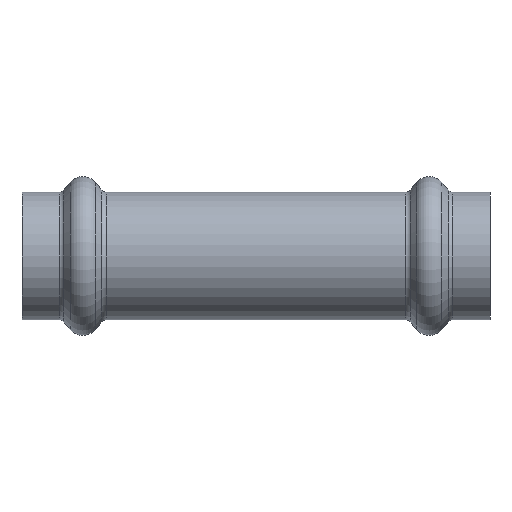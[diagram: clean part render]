
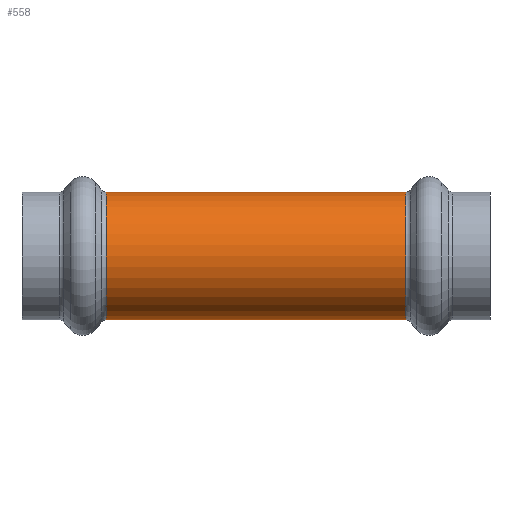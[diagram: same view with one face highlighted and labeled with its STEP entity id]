
A CAD part, front view. The second image highlights one B-rep face of the part: STEP entity #558.
In plain terms, the highlighted cylindrical face has radius 10.5 mm (diameter 21 mm), a partial arc.
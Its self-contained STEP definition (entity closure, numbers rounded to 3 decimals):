
#62 = DIRECTION ( 'NONE',  ( -1., 0., 0. ) ) ;
#219 = CARTESIAN_POINT ( 'NONE',  ( -24.623, 0., -10.5 ) ) ;
#237 = AXIS2_PLACEMENT_3D ( 'NONE', #2295, #62, #2647 ) ;
#305 = CARTESIAN_POINT ( 'NONE',  ( -58.611, 0., 0. ) ) ;
#402 = ORIENTED_EDGE ( 'NONE', *, *, #1023, .T. ) ;
#470 = EDGE_CURVE ( 'NONE', #1238, #535, #2749, .T. ) ;
#496 = ORIENTED_EDGE ( 'NONE', *, *, #3043, .F. ) ;
#535 = VERTEX_POINT ( 'NONE', #4714 ) ;
#537 = CARTESIAN_POINT ( 'NONE',  ( -58.611, 0., 10.5 ) ) ;
#556 = ORIENTED_EDGE ( 'NONE', *, *, #470, .T. ) ;
#558 = ADVANCED_FACE ( 'NONE', ( #1686 ), #4499, .T. ) ;
#676 = DIRECTION ( 'NONE',  ( -1., 0., 0. ) ) ;
#1023 = EDGE_CURVE ( 'NONE', #535, #2277, #2716, .T. ) ;
#1238 = VERTEX_POINT ( 'NONE', #4059 ) ;
#1580 = DIRECTION ( 'NONE',  ( 1., 0., 0. ) ) ;
#1686 = FACE_OUTER_BOUND ( 'NONE', #2839, .T. ) ;
#2277 = VERTEX_POINT ( 'NONE', #219 ) ;
#2295 = CARTESIAN_POINT ( 'NONE',  ( 24.623, 0., 0. ) ) ;
#2541 = AXIS2_PLACEMENT_3D ( 'NONE', #3758, #1580, #4130 ) ;
#2647 = DIRECTION ( 'NONE',  ( 0., 0., 1. ) ) ;
#2716 = CIRCLE ( 'NONE', #2541, 10.5 ) ;
#2722 = DIRECTION ( 'NONE',  ( -1., 0., 0. ) ) ;
#2749 = LINE ( 'NONE', #537, #3730 ) ;
#2839 = EDGE_LOOP ( 'NONE', ( #496, #4223, #556, #402 ) ) ;
#2951 = VERTEX_POINT ( 'NONE', #4277 ) ;
#3043 = EDGE_CURVE ( 'NONE', #2951, #2277, #3951, .T. ) ;
#3411 = VECTOR ( 'NONE', #676, 1000. ) ;
#3730 = VECTOR ( 'NONE', #2722, 1000. ) ;
#3758 = CARTESIAN_POINT ( 'NONE',  ( -24.623, 0., 0. ) ) ;
#3832 = CIRCLE ( 'NONE', #237, 10.5 ) ;
#3951 = LINE ( 'NONE', #3975, #3411 ) ;
#3975 = CARTESIAN_POINT ( 'NONE',  ( -58.611, 0., -10.5 ) ) ;
#4022 = AXIS2_PLACEMENT_3D ( 'NONE', #305, #4352, #4731 ) ;
#4059 = CARTESIAN_POINT ( 'NONE',  ( 24.623, 0., 10.5 ) ) ;
#4130 = DIRECTION ( 'NONE',  ( 0., 0., -1. ) ) ;
#4223 = ORIENTED_EDGE ( 'NONE', *, *, #4649, .T. ) ;
#4277 = CARTESIAN_POINT ( 'NONE',  ( 24.623, 0., -10.5 ) ) ;
#4352 = DIRECTION ( 'NONE',  ( -1., 0., 0. ) ) ;
#4499 = CYLINDRICAL_SURFACE ( 'NONE', #4022, 10.5 ) ;
#4649 = EDGE_CURVE ( 'NONE', #2951, #1238, #3832, .T. ) ;
#4714 = CARTESIAN_POINT ( 'NONE',  ( -24.623, 0., 10.5 ) ) ;
#4731 = DIRECTION ( 'NONE',  ( 0., 0., 1. ) ) ;
